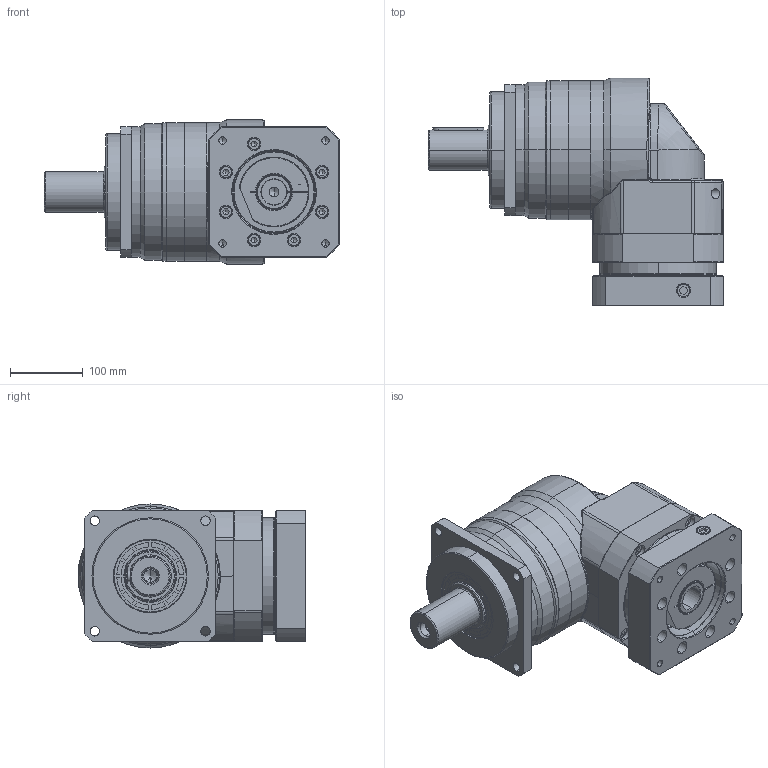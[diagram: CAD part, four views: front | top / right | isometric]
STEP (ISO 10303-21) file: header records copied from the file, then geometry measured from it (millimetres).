
FILE_DESCRIPTION (( 'STEP AP214' ), '1' );
FILE_NAME ('EVT180-L1-S2-P1 35-114.3-200-M12-82.STEP', '2025-01-06T01:20:47', ( '微软用户' ), ( '微软中国' ), 'SwSTEP 2.0', 'SolidWorks 2021', '' );
FILE_SCHEMA (( 'AUTOMOTIVE_DESIGN' ));
Length unit declared in the file: millimetre
Products named in the file (4): EVB180D-L1-S2-35-114.3-200-M12-82; EVT200D-L1-30-180-215-M12-87; 23-EVT200F眻褒眊极_igs.stp; EVT180-L1-S2-P1 35-114.3-200-M12-82
Assembly tree (11 placements, depth 2):
  EVT180-L1-S2-P1 35-114.3-200-M12-82
    EVB180D-L1-S2-35-114.3-200-M12-82
    23-EVT200F眻褒眊极_igs.stp
    EVT200D-L1-30-180-215-M12-87  x9
Bounding box: 405.5 x 313 x 198 mm (x, y, z)
Surface area: 880821.3 mm2 (no closed solid volume)
Topology: 0 solids, 57 shells, 1936 faces, 4576 edges, 2791 vertices
Faces by surface type: cylinder 630, plane 542, bspline 467, cone 290, torus 7
Entity records: 74387 total; most frequent: CARTESIAN_POINT 39295, ORIENTED_EDGE 7770, DIRECTION 6301, EDGE_CURVE 3948, AXIS2_PLACEMENT_3D 2550, VERTEX_POINT 2447, EDGE_LOOP 1925, ADVANCED_FACE 1712
